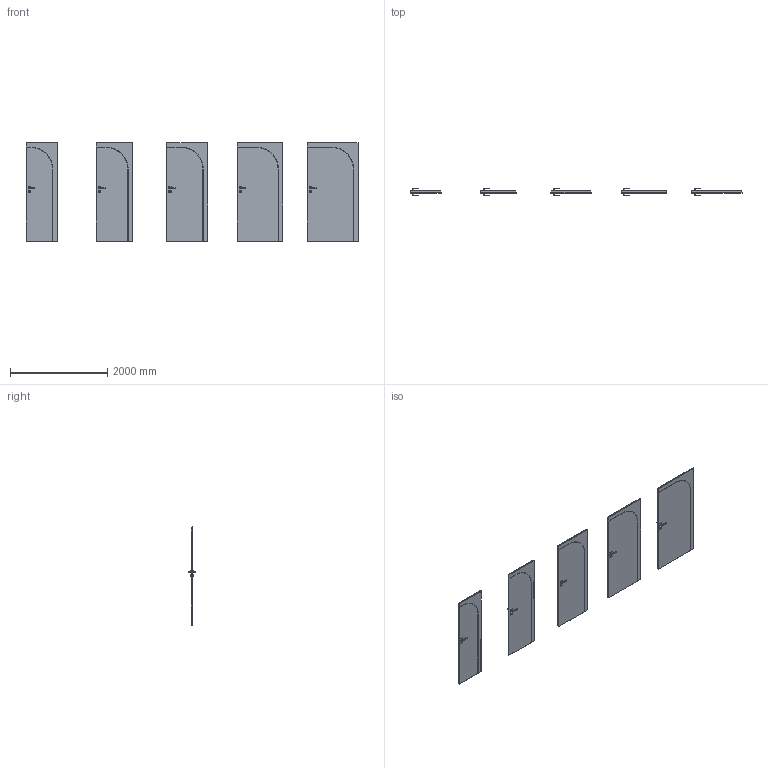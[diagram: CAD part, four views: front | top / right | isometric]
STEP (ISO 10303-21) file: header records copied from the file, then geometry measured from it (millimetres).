
FILE_DESCRIPTION(/* description */ (''),/* implementation_level */ '2;1');
FILE_NAME(/* name */ '049908_A_2-Skrzydło ART DECO model 6_ polska norma _PN__ przylgowe.stp',/* time_stamp */ '2024-09-13T12:49:31+02:00',/* author */ (''),/* organization */ (''),/* preprocessor_version */ 'ST-DEVELOPER v16',/* originating_system */ 'SIEMENS PLM Software NX 11.0',/* authorisation */ '');
FILE_SCHEMA (('AUTOMOTIVE_DESIGN { 1 0 10303 214 3 1 1 1 }'));
Length unit declared in the file: millimetre
Products named in the file (1): msmo68508806qn3p
Bounding box: 6844 x 153.13 x 2030 mm (x, y, z)
Volume: 328836686.8 mm3; surface area: 18536405.2 mm2
Topology: 25 solids, 25 shells, 1100 faces, 2630 edges, 1480 vertices
Faces by surface type: plane 440, cylinder 300, bspline 160, sphere 140, torus 40, cone 20
Entity records: 36209 total; most frequent: CARTESIAN_POINT 12091, ORIENTED_EDGE 4980, DIRECTION 4912, EDGE_CURVE 2490, AXIS2_PLACEMENT_3D 1781, VERTEX_POINT 1480, LINE 1350, VECTOR 1350
